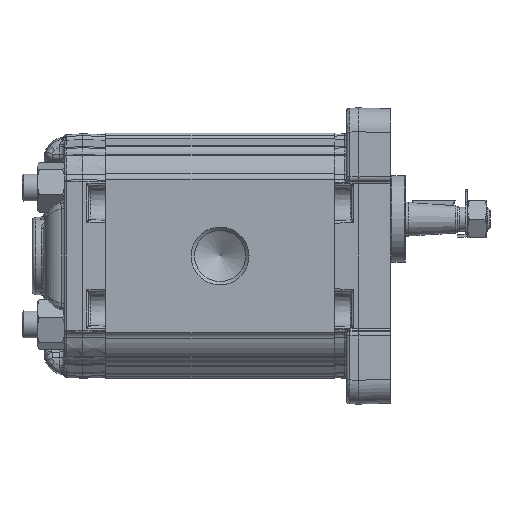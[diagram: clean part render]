
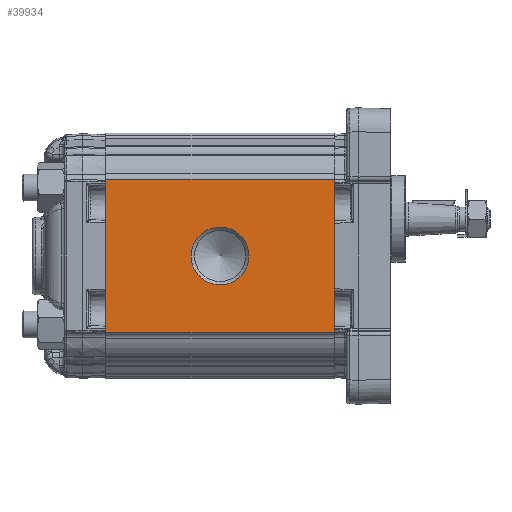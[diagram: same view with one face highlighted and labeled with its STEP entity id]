
A CAD part, left-side view. The second image highlights one B-rep face of the part: STEP entity #39934.
In plain terms, the highlighted planar face has unit normal (-1, 0, 0).
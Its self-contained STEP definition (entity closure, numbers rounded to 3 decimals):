
#3894=LINE('',#93431,#5859);
#3904=LINE('',#93532,#5869);
#3923=LINE('',#93580,#5888);
#3924=LINE('',#93582,#5889);
#5859=VECTOR('',#70312,1000.);
#5869=VECTOR('',#70404,1000.);
#5888=VECTOR('',#70459,1000.);
#5889=VECTOR('',#70462,1000.);
#7303=PLANE('',#62501);
#12951=ORIENTED_EDGE('',*,*,#22387,.F.);
#12952=ORIENTED_EDGE('',*,*,#22485,.T.);
#12953=ORIENTED_EDGE('',*,*,#22457,.T.);
#12954=ORIENTED_EDGE('',*,*,#22486,.T.);
#12955=ORIENTED_EDGE('',*,*,#22407,.F.);
#22387=EDGE_CURVE('',#27495,#27495,#30690,.F.);
#22407=EDGE_CURVE('',#27516,#27517,#3894,.T.);
#22457=EDGE_CURVE('',#27567,#27566,#3904,.T.);
#22485=EDGE_CURVE('',#27516,#27567,#3923,.T.);
#22486=EDGE_CURVE('',#27566,#27517,#3924,.F.);
#27495=VERTEX_POINT('',#93387);
#27516=VERTEX_POINT('',#93430);
#27517=VERTEX_POINT('',#93432);
#27566=VERTEX_POINT('',#93531);
#27567=VERTEX_POINT('',#93533);
#30690=CIRCLE('',#62405,8.475);
#33289=EDGE_LOOP('',(#12951));
#33290=EDGE_LOOP('',(#12952,#12953,#12954,#12955));
#36289=FACE_BOUND('',#33289,.T.);
#36290=FACE_BOUND('',#33290,.T.);
#39934=ADVANCED_FACE('',(#36289,#36290),#7303,.T.);
#62405=AXIS2_PLACEMENT_3D('',#93386,#70269,#70270);
#62501=AXIS2_PLACEMENT_3D('',#93609,#70505,#70506);
#70269=DIRECTION('',(1.,0.,0.));
#70270=DIRECTION('',(0.,0.,-1.));
#70312=DIRECTION('',(0.,0.,1.));
#70404=DIRECTION('',(0.,0.,1.));
#70459=DIRECTION('',(0.,-1.,0.));
#70462=DIRECTION('',(0.,-1.,0.));
#70505=DIRECTION('',(-1.,0.,0.));
#70506=DIRECTION('',(0.,0.,1.));
#93386=CARTESIAN_POINT('',(-33.,33.5,0.));
#93387=CARTESIAN_POINT('',(-33.,33.5,-8.475));
#93430=CARTESIAN_POINT('',(-33.,67.,-22.5));
#93431=CARTESIAN_POINT('',(-33.,67.,-21.711));
#93432=CARTESIAN_POINT('',(-33.,67.,22.5));
#93531=CARTESIAN_POINT('',(-33.,0.,22.5));
#93532=CARTESIAN_POINT('',(-33.,0.,-21.711));
#93533=CARTESIAN_POINT('',(-33.,0.,-22.5));
#93580=CARTESIAN_POINT('',(-33.,67.,-22.5));
#93582=CARTESIAN_POINT('',(-33.,67.,22.5));
#93609=CARTESIAN_POINT('',(-33.,135.47,48.138));
